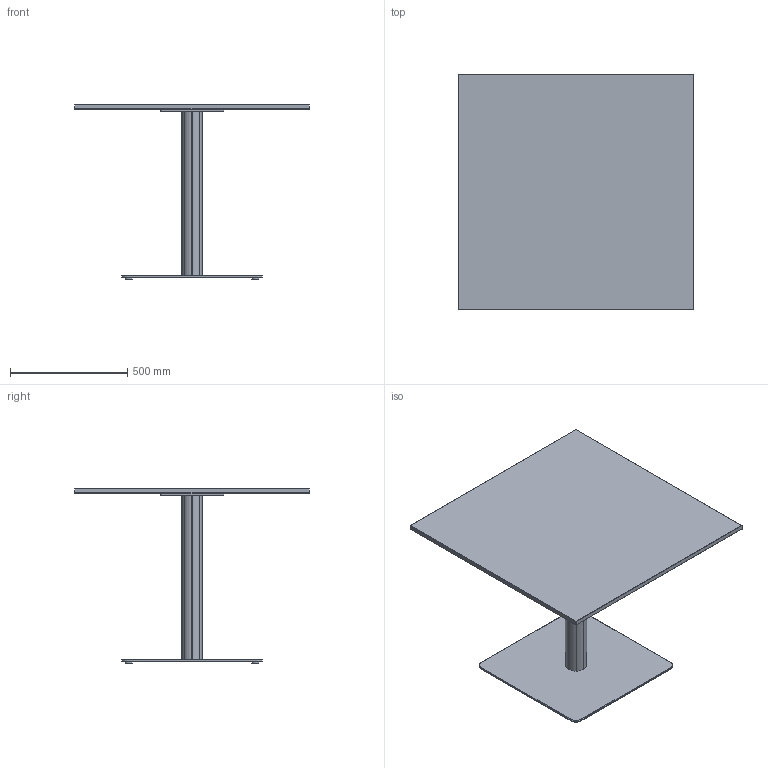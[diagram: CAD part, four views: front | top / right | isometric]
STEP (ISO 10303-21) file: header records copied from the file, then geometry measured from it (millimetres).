
FILE_DESCRIPTION( ('This file contains a STEP AP42 implementation' ,'as created by ZW3D STEP Interface translator.') ,'2;1' );
FILE_NAME( 'Fut - B_Carré - F4 - M1 - 1000 x 1000 x 750.stp' ,'24 911.163219', (''), ('ZWCAD Software Co.'), 'Version 1.0', 'ZW3D to STEP translator', '' );
FILE_SCHEMA(('AUTOMOTIVE_DESIGN { 1 0 10303 214 1 1 1 1 }'));
Length unit declared in the file: millimetre
Products named in the file (15): 0; PIED BISTROT PARAMETRIQUE_; CROIX ACIER 370 V.02_; CRX-X370-02_; SOCLE ACIER L 600x600 V.02_; SCL-R600-02_; PLA-R30A-01_; PLA-R30A-01; COLONNE ACIER Ø48.5 V.02_; TUB-D048-02_; PLA-R48A-01_; COLONNE BOIS PARAMETIQUE_; WUERTH 0276063020 Euro-screw 6.3x2 Verzinkt_; PLATEAU BISTROT PARAMETRIQUE_; insert_m6_13_
Assembly tree (23 placements, depth 3):
  0
  PIED BISTROT PARAMETRIQUE_
    CROIX ACIER 370 V.02_
      CRX-X370-02_
    SOCLE ACIER L 600x600 V.02_
      SCL-R600-02_
      PLA-R30A-01_
      PLA-R30A-01  x3
    COLONNE ACIER Ø48.5 V.02_
      TUB-D048-02_
      PLA-R48A-01_  x2
    COLONNE BOIS PARAMETIQUE_
    WUERTH 0276063020 Euro-screw 6.3x2 Verzinkt_
    PLATEAU BISTROT PARAMETRIQUE_
      insert_m6_13_  x8
Bounding box: 1000 x 1000 x 744 mm (x, y, z)
Volume: 26376484.9 mm3; surface area: 3600279.7 mm2
Topology: 23 solids, 23 shells, 561 faces, 1358 edges, 846 vertices
Faces by surface type: plane 282, bspline 129, cylinder 104, cone 45, torus 1
Full cylindrical faces by diameter (mm): 4.88 x1, 6 x8, 6.3 x1, 8 x45, 12 x2, 14 x2, 30 x4, 44.5 x3, 48.5 x1
Entity records: 13039 total; most frequent: CARTESIAN_POINT 3561, ORIENTED_EDGE 1722, DIRECTION 1600, EDGE_CURVE 861, VECTOR 558, LINE 558, VERTEX_POINT 548, AXIS2_PLACEMENT_3D 521
